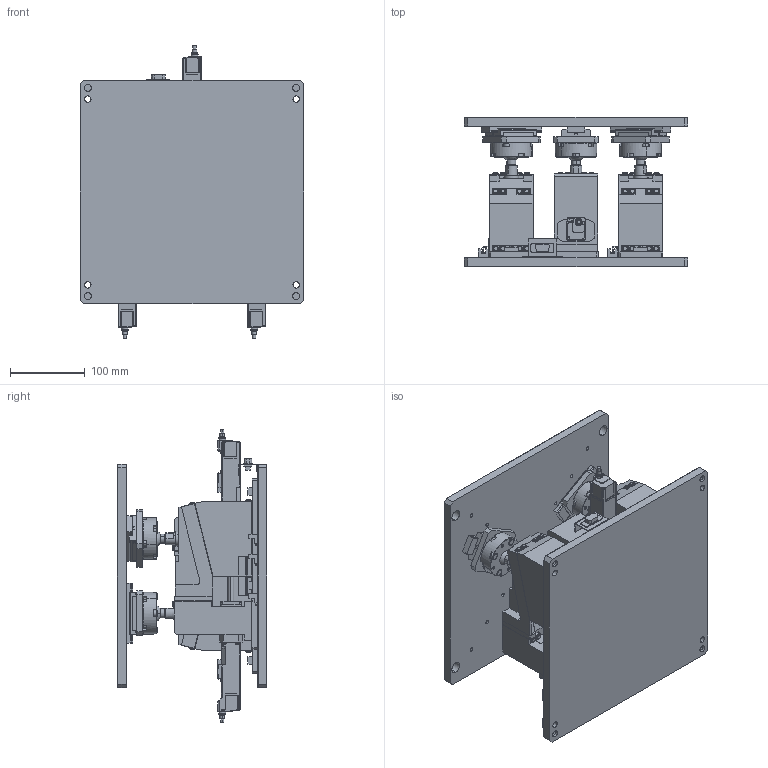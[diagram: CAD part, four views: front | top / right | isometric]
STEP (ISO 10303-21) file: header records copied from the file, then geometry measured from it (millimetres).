
FILE_DESCRIPTION (( 'STEP AP203' ), '1' );
FILE_NAME ('154_Z16AB06-AC3-200050_defeature_AP203.STEP', '2024-03-20T08:38:36', ( '' ), ( '' ), 'SwSTEP 2.0', 'SolidWorks 2023', '' );
FILE_SCHEMA (( 'CONFIG_CONTROL_DESIGN' ));
Products named in the file (1): 154_Z16AB06-AC3-200050_defeature_AP203
Bounding box: 300 x 200 x 393 mm (x, y, z)
Volume: 5581982.8 mm3; surface area: 833683.5 mm2
Topology: 1 solids, 1 shells, 3697 faces, 9768 edges, 6231 vertices
Faces by surface type: plane 2529, cylinder 834, cone 310, bspline 18, sphere 6
Entity records: 113799 total; most frequent: CARTESIAN_POINT 20539, ORIENTED_EDGE 19536, DIRECTION 19236, EDGE_CURVE 9768, VECTOR 7352, LINE 7352, VERTEX_POINT 6231, AXIS2_PLACEMENT_3D 5942
